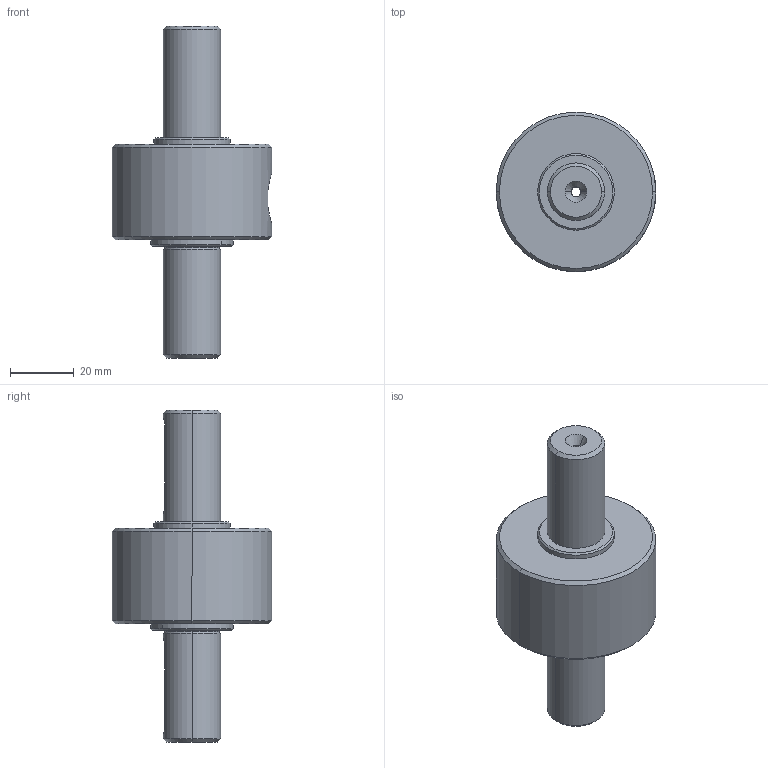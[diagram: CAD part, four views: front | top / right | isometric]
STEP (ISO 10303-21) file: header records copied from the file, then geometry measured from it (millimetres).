
FILE_DESCRIPTION (( 'STEP AP203' ), '1' );
FILE_NAME ('DRW-K-50Nm.STEP', '2014-05-13T12:23:17', ( 'nsi' ), ( '' ), 'SwSTEP 2.0', 'SolidWorks 2014', '' );
FILE_SCHEMA (( 'CONFIG_CONTROL_DESIGN' ));
Length unit declared in the file: millimetre
Products named in the file (1): DRW-K-50Nm
Bounding box: 50 x 50 x 104 mm (x, y, z)
Surface area: 16862.8 mm2 (no closed solid volume)
Topology: 0 solids, 6 shells, 73 faces, 171 edges, 108 vertices
Faces by surface type: cylinder 33, cone 20, plane 16, torus 4
Entity records: 2402 total; most frequent: CARTESIAN_POINT 613, DIRECTION 396, ORIENTED_EDGE 312, EDGE_CURVE 169, AXIS2_PLACEMENT_3D 165, VERTEX_POINT 108, CIRCLE 91, EDGE_LOOP 86
